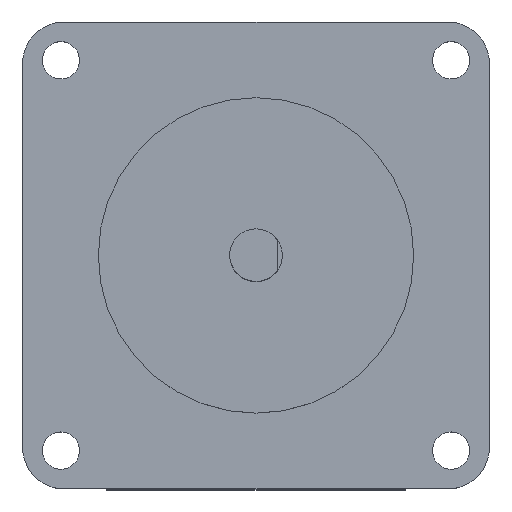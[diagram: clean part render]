
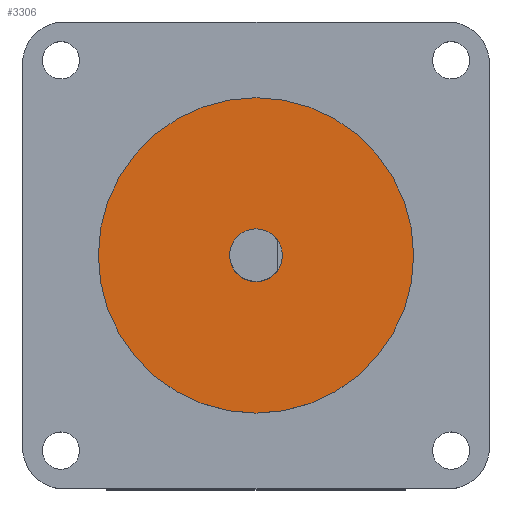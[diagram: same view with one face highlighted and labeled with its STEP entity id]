
A CAD part, top view. The second image highlights one B-rep face of the part: STEP entity #3306.
In plain terms, the highlighted planar face has unit normal (0, 0, 1).
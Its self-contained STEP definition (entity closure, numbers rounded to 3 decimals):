
#20 = CARTESIAN_POINT ( 'NONE',  ( 0., 0., 1.6 ) ) ;
#32 = AXIS2_PLACEMENT_3D ( 'NONE', #929, #3190, #1270 ) ;
#79 = VERTEX_POINT ( 'NONE', #3836 ) ;
#98 = DIRECTION ( 'NONE',  ( 0., 0., -1. ) ) ;
#183 = ORIENTED_EDGE ( 'NONE', *, *, #3712, .T. ) ;
#244 = CARTESIAN_POINT ( 'NONE',  ( 0., 0., 1.6 ) ) ;
#380 = DIRECTION ( 'NONE',  ( 0., 0., 1. ) ) ;
#382 = CARTESIAN_POINT ( 'NONE',  ( -3.175, 0., 1.6 ) ) ;
#582 = AXIS2_PLACEMENT_3D ( 'NONE', #2040, #98, #2366 ) ;
#584 = DIRECTION ( 'NONE',  ( 1., 0., 0. ) ) ;
#709 = ORIENTED_EDGE ( 'NONE', *, *, #3398, .T. ) ;
#816 = ORIENTED_EDGE ( 'NONE', *, *, #2924, .T. ) ;
#929 = CARTESIAN_POINT ( 'NONE',  ( 0., 0., 1.6 ) ) ;
#969 = FACE_OUTER_BOUND ( 'NONE', #1360, .T. ) ;
#1058 = VERTEX_POINT ( 'NONE', #1213 ) ;
#1213 = CARTESIAN_POINT ( 'NONE',  ( -19.05, 0., 1.6 ) ) ;
#1270 = DIRECTION ( 'NONE',  ( 1., 0., 0. ) ) ;
#1360 = EDGE_LOOP ( 'NONE', ( #183, #816 ) ) ;
#1556 = DIRECTION ( 'NONE',  ( 0., 0., -1. ) ) ;
#1585 = ORIENTED_EDGE ( 'NONE', *, *, #3169, .T. ) ;
#2040 = CARTESIAN_POINT ( 'NONE',  ( 0., 0., 1.6 ) ) ;
#2101 = CIRCLE ( 'NONE', #4127, 3.175 ) ;
#2366 = DIRECTION ( 'NONE',  ( 1., 0., 0. ) ) ;
#2481 = DIRECTION ( 'NONE',  ( 0., 0., 1. ) ) ;
#2549 = EDGE_LOOP ( 'NONE', ( #1585, #709 ) ) ;
#2574 = FACE_BOUND ( 'NONE', #2549, .T. ) ;
#2601 = DIRECTION ( 'NONE',  ( 1., 0., 0. ) ) ;
#2682 = CIRCLE ( 'NONE', #32, 19.05 ) ;
#2924 = EDGE_CURVE ( 'NONE', #3623, #1058, #4119, .T. ) ;
#3112 = VERTEX_POINT ( 'NONE', #382 ) ;
#3169 = EDGE_CURVE ( 'NONE', #3112, #79, #2101, .T. ) ;
#3190 = DIRECTION ( 'NONE',  ( 0., 0., 1. ) ) ;
#3240 = PLANE ( 'NONE',  #3391 ) ;
#3306 = ADVANCED_FACE ( 'NONE', ( #969, #2574 ), #3240, .T. ) ;
#3391 = AXIS2_PLACEMENT_3D ( 'NONE', #20, #380, #2601 ) ;
#3398 = EDGE_CURVE ( 'NONE', #79, #3112, #3799, .T. ) ;
#3467 = CARTESIAN_POINT ( 'NONE',  ( 0., 0., 1.6 ) ) ;
#3623 = VERTEX_POINT ( 'NONE', #4089 ) ;
#3712 = EDGE_CURVE ( 'NONE', #1058, #3623, #2682, .T. ) ;
#3799 = CIRCLE ( 'NONE', #582, 3.175 ) ;
#3809 = DIRECTION ( 'NONE',  ( 1., 0., 0. ) ) ;
#3836 = CARTESIAN_POINT ( 'NONE',  ( 3.175, 0., 1.6 ) ) ;
#4080 = AXIS2_PLACEMENT_3D ( 'NONE', #244, #2481, #584 ) ;
#4089 = CARTESIAN_POINT ( 'NONE',  ( 19.05, 0., 1.6 ) ) ;
#4119 = CIRCLE ( 'NONE', #4080, 19.05 ) ;
#4127 = AXIS2_PLACEMENT_3D ( 'NONE', #3467, #1556, #3809 ) ;
